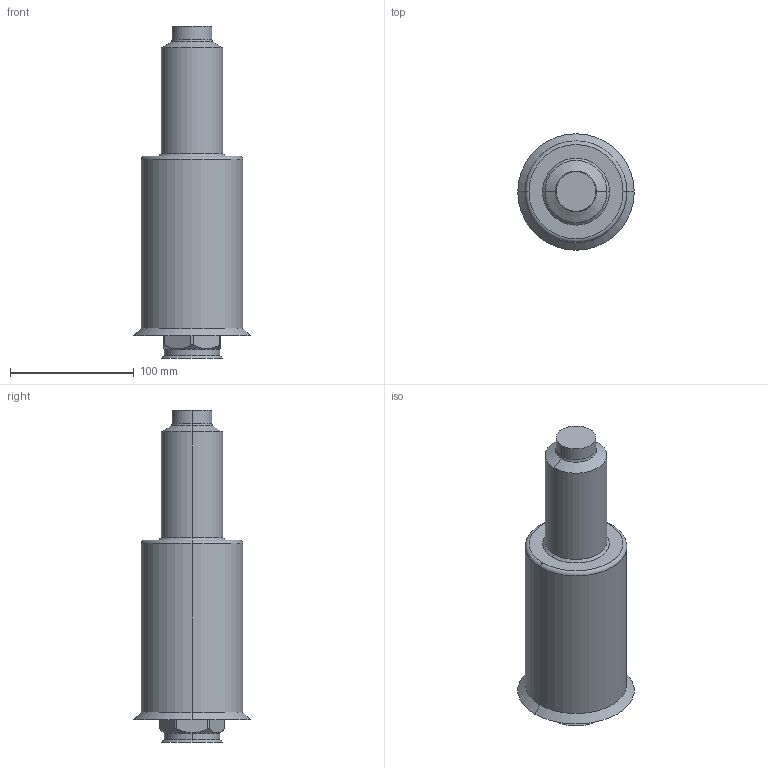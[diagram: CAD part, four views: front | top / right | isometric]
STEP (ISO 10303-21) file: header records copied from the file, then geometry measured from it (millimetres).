
FILE_DESCRIPTION (( 'STEP AP214' ), '1' );
FILE_NAME ('T20_CLOSED_250_BAND.STEP', '2009-05-11T13:08:14', ( 'Synventive Molding Solutions' ), ( 'Synventive Molding Solutions' ), 'SwSTEP 2.0', 'SolidWorks 2008', '' );
FILE_SCHEMA (( 'AUTOMOTIVE_DESIGN' ));
Length unit declared in the file: millimetre
Products named in the file (1): T20_CLOSED_250_BAND
Bounding box: 94 x 94 x 268 mm (x, y, z)
Volume: 1443974.8 mm3; surface area: 121865.3 mm2
Topology: 4 solids, 4 shells, 396 faces, 1025 edges, 641 vertices
Faces by surface type: plane 153, cylinder 144, torus 67, cone 24, sphere 4, bspline 4
Entity records: 17810 total; most frequent: CARTESIAN_POINT 3663, DIRECTION 2099, ORIENTED_EDGE 2042, EDGE_CURVE 1021, AXIS2_PLACEMENT_3D 815, VERTEX_POINT 641, LINE 469, VECTOR 469
